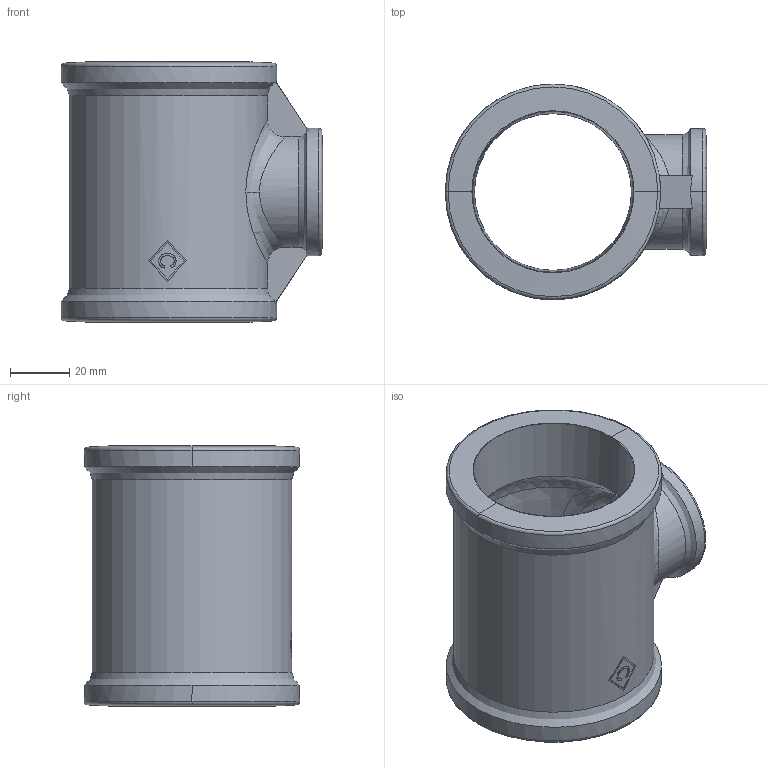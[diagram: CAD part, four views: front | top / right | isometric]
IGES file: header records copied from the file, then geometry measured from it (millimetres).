
Global section: file name: No Iges File Name specified; native system: AutoDesk Inventor R12.0; preprocessor: AutoDesk Inventor Iges Exporter R12.0; date: 20090916.161837; units: millimetre
Bounding box: 88.4 x 72.8 x 88 mm (x, y, z)
Volume: 116455.2 mm3; surface area: 42459.1 mm2
Topology: 1 solids, 1 shells, 77 faces, 207 edges, 134 vertices
Faces by surface type: bspline 25, plane 19, cylinder 12, revolution 9, torus 6, cone 6
